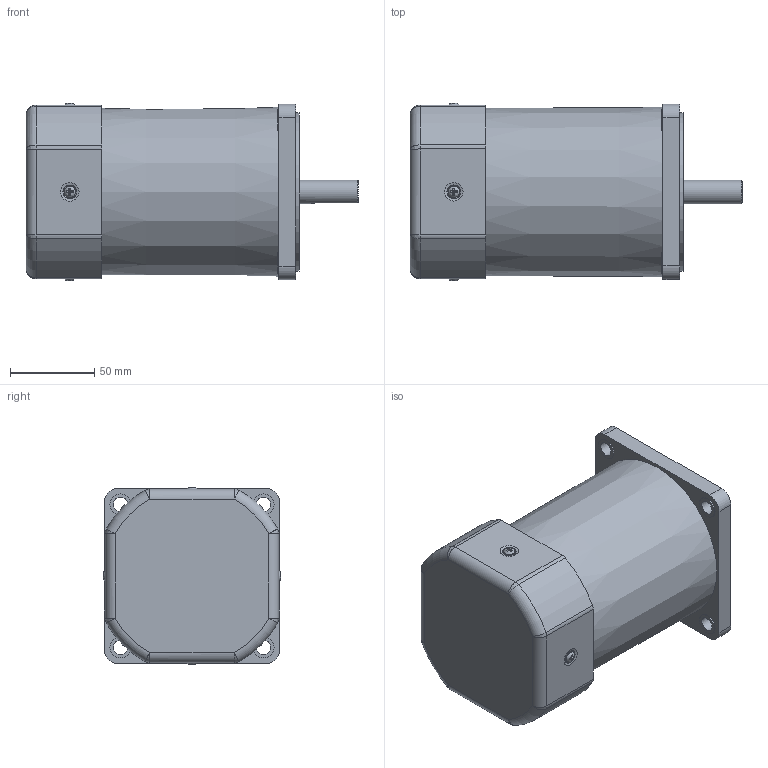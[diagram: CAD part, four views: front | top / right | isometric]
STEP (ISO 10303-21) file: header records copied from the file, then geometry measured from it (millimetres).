
FILE_DESCRIPTION((''),'2;1');
FILE_NAME('D:\yang\Yang cw\SPG 업무\2. DC MOTOR\7. DC MOTOR 브로슈어\AC MOTOR\104R각 200W\S10I200K_.stp','2015-03-30T14:22:45',('ycw1227'),(''),'Autodesk Inventor 2013','Autodesk Inventor 2013','');
FILE_SCHEMA(('AUTOMOTIVE_DESIGN { 1 0 10303 214 1 1 1 1 }'));
Length unit declared in the file: millimetre
Products named in the file (1): 부품67
Bounding box: 197 x 105.57 x 105.48 mm (x, y, z)
Volume: 1155593.7 mm3; surface area: 116103.6 mm2
Topology: 1 solids, 3 shells, 234 faces, 578 edges, 357 vertices
Faces by surface type: plane 101, cylinder 70, torus 23, cone 20, bspline 20
Full cylindrical faces by diameter (mm): 2.778 x1, 4 x4, 5 x4, 7 x4, 8.5 x4, 12.5 x4, 14 x1, 43 x1, 94 x1, 98 x1
Entity records: 7898 total; most frequent: CARTESIAN_POINT 2761, DIRECTION 975, ORIENTED_EDGE 938, EDGE_CURVE 469, AXIS2_PLACEMENT_3D 383, EDGE_LOOP 337, VERTEX_POINT 328, FACE_OUTER_BOUND 234
